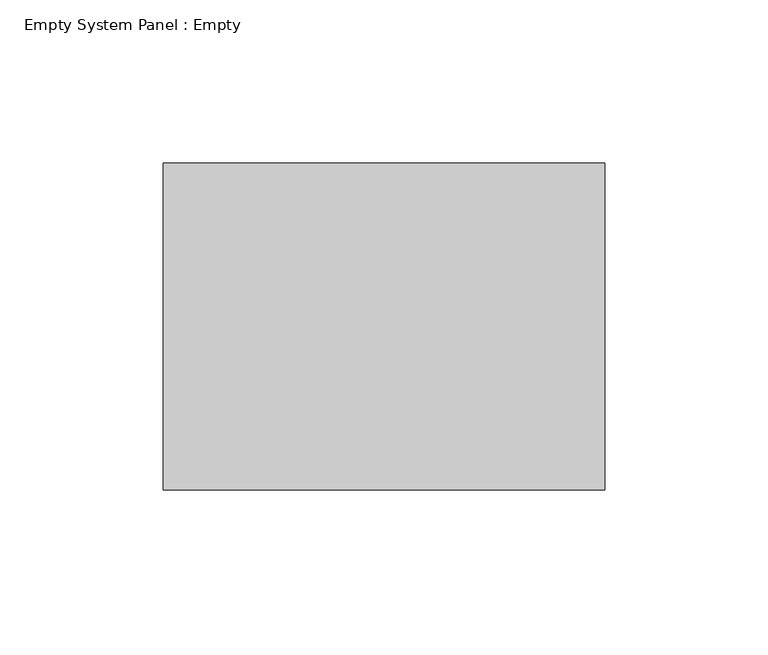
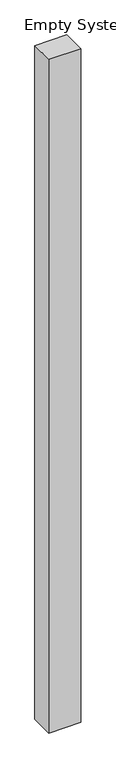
"""IFC4 building model written with IfcOpenShell, lengths in millimetres: plate geometry, Empty System Panel : Empty."""

from ifc_helpers import new_model, si_unit, origin, origin_with_axes, place, context, project, spatial, polyline, outline, extrude, source, transform, mapped, element, save


def empty_system_panel_empty_a223c933(model_context):
    return source(origin(), model_context, "Body", "SweptSolid", [
        extrude(outline(polyline([(67.5, -50.0), (-67.5, -50.0), (-67.5, 50.0), (67.5, 50.0), (67.5, -50.0)])), origin_with_axes(), (0.0, 0.0, 1.0), 3000.0),
    ])


if __name__ == "__main__":
    model = new_model("IFC4")
    model_context = context("Model", 3, world=origin())
    ifc_project = project(units=[si_unit("LENGTHUNIT", "METRE", prefix="MILLI")], contexts=[model_context])
    site = spatial("IfcSite", under=ifc_project)
    building = spatial("IfcBuilding", under=site)
    placement = place(None, origin())
    empty_system_panel_empty_shape = empty_system_panel_empty_a223c933(model_context)
    element("IfcPlate", 1, ObjectType="Empty System Panel : Empty", at=placement, inside=building, context=model_context, shape_type="MappedRepresentation", body=[
        mapped(empty_system_panel_empty_shape, transform((0.0, 0.0, 0.0), x_axis=(1.0, 0.0, 0.0), y_axis=(0.0, 1.0, 0.0), z_axis=(0.0, 0.0, 1.0))),
    ])
    save(model, "model.ifc")
